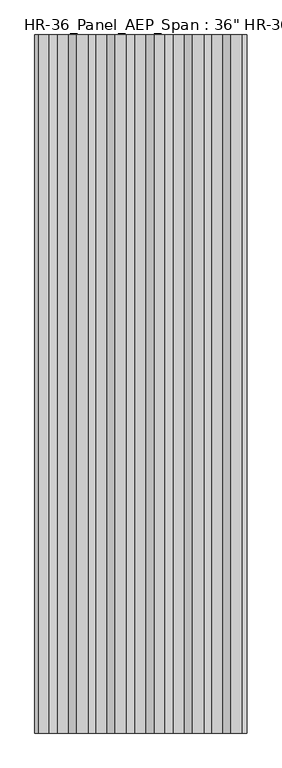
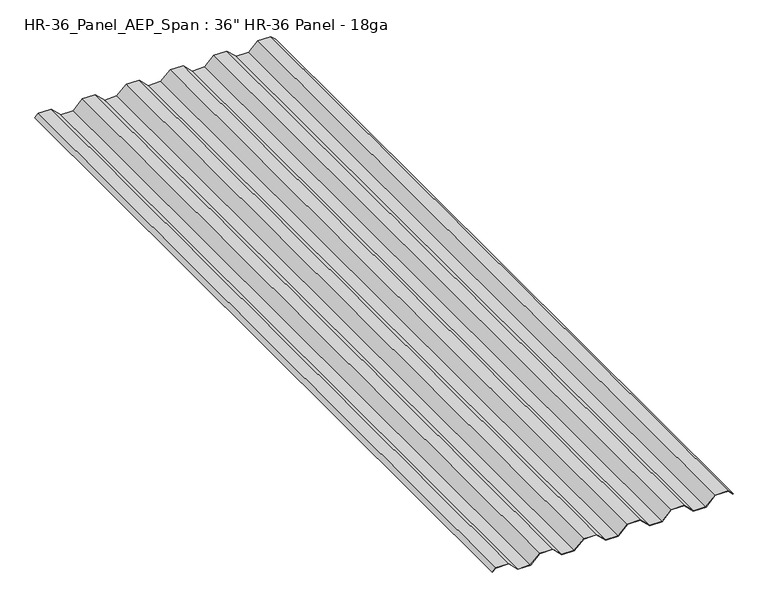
"""IFC4 building model written with IfcOpenShell, lengths in millimetres: proxy geometry."""

from ifc_helpers import new_model, si_unit, frame, origin, place, context, project, spatial, polyline, outline, extrude, source, transform, mapped, element, save


def proxy_5ac39d22(model_context):
    return source(origin(), model_context, "Body", "SweptSolid", [
        extrude(outline(polyline([(37.465, -483.6642462), (37.465, -431.3050165), (0.0, -392.5088732), (0.0, -339.5803866), (37.465, -300.7842433), (37.465, -247.8557567), (0.0, -209.0596134), (0.0, -156.7003866), (37.465, -117.9042433), (37.465, -64.9757567), (0.0, -26.1796134), (0.0, 26.1796134), (37.465, 64.9757567), (37.465, 117.9042433), (0.0, 156.7003866), (0.0, 209.0596134), (37.465, 247.8557567), (37.465, 300.7842433), (0.0, 339.5803866), (0.0, 391.9396134), (37.465, 430.7357567), (37.465, 483.6642433), (17.962962, 503.8591949), (18.7874751, 504.683708), (38.63086, 484.1352814), (38.63086, 430.2647186), (1.16586, 391.4685754), (1.16586, 340.0514246), (38.63086, 301.2552814), (38.63086, 247.3847186), (1.16586, 208.5885754), (1.16586, 157.1714246), (38.63086, 118.3752814), (38.63086, 64.5047186), (1.16586, 25.7085754), (1.16586, -25.7085754), (38.63086, -64.5047186), (38.63086, -118.3752814), (1.16586, -157.1714246), (1.16586, -208.5885754), (38.63086, -247.3847186), (38.63086, -301.2552814), (1.16586, -340.0514246), (1.16586, -392.0378352), (38.63086, -430.8339784), (38.63086, -484.1352842), (24.2056839, -499.0729913), (23.3811708, -498.2484783), (37.465, -483.6642462)])), frame((0.0, -3302.0, 0.0), z_axis=(0.0, 1.0, 0.0), x_axis=(0.0, 0.0, 1.0)), (0.0, 0.0, 1.0), 3302.0),
    ])


if __name__ == "__main__":
    model = new_model("IFC4")
    model_context = context("Model", 3, world=origin())
    ifc_project = project(units=[si_unit("LENGTHUNIT", "METRE", prefix="MILLI")], contexts=[model_context])
    site = spatial("IfcSite", under=ifc_project)
    building = spatial("IfcBuilding", under=site)
    placement = place(None, origin())
    proxy_shape = proxy_5ac39d22(model_context)
    element("IfcBuildingElementProxy", 1, Name="HR-36_Panel_AEP_Span : 36\" HR-36 Panel - 18ga", ObjectType="HR-36_Panel_AEP_Span : 36\" HR-36 Panel - 18ga", at=placement, inside=building, context=model_context, shape_type="MappedRepresentation", body=[
        mapped(proxy_shape, transform((0.0, 0.0, 0.0), x_axis=(1.0, 0.0, 0.0), y_axis=(0.0, 1.0, 0.0), z_axis=(0.0, 0.0, 1.0))),
    ])
    save(model, "model.ifc")
